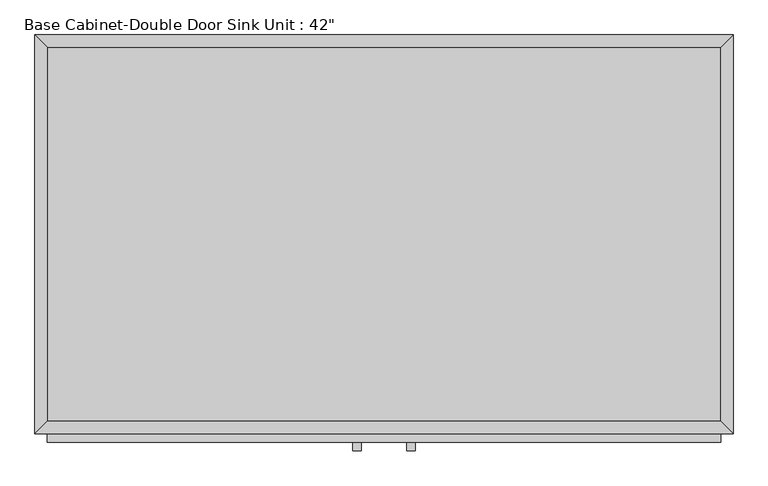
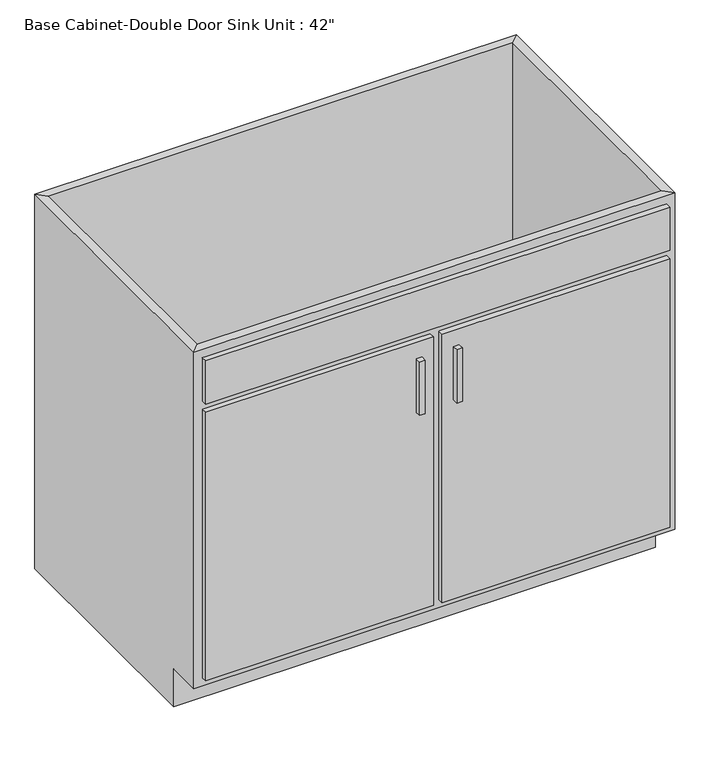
"""IFC4 building model written with IfcOpenShell, lengths in millimetres: furniture geometry."""

import ifcopenshell
import ifcopenshell.guid

model = None  # the IFC model being written
_history = None  # IfcOwnerHistory: only IFC2X3 demands one
_inside = {}  # id of a spatial element -> (the spatial element, [elements in it])
_under = {}  # id of a project, library or spatial element -> (it, [spatial elements below it])
_declared = {}  # id of a project -> (the project, [libraries it declares])
_typed = {}  # id of a type object -> (the type object, [elements of that type])
_made_of = {}  # id of a material, layer set ... -> (it, [elements and type objects made of it])


def new_model(schema):
    """Start an empty IFC model of exactly this schema.

    Asked for "IFC4X3", IfcOpenShell would pick the latest addendum, in which some entities
    have other attributes; the version numbers below select the first issue.
    IFC2X3 requires an IfcOwnerHistory on every rooted entity: one is made here for all.
    """
    global model, _history
    if schema == "IFC4X3":
        model = ifcopenshell.file(schema_version=(4, 3, 0, 0))
    else:
        model = ifcopenshell.file(schema=schema)
    _inside.clear()
    _under.clear()
    _declared.clear()
    _typed.clear()
    _made_of.clear()
    _history = None
    if model.schema == "IFC2X3":
        org = make("IfcOrganization", Name="unknown")
        user = make(
            "IfcPersonAndOrganization",
            ThePerson=make("IfcPerson", FamilyName="unknown"),
            TheOrganization=org,
        )
        app = make(
            "IfcApplication",
            ApplicationDeveloper=org,
            Version="unknown",
            ApplicationFullName="unknown",
            ApplicationIdentifier="unknown",
        )
        _history = make(
            "IfcOwnerHistory",
            OwningUser=user,
            OwningApplication=app,
            ChangeAction="ADDED",
            CreationDate=0,
        )
    return model


def make(cls, **values):
    """One entity of the class cls with the attributes given. An attribute that is None is left unset."""
    return model.create_entity(
        cls, **{name: value for name, value in values.items() if value is not None}
    )


def rooted(cls, **values):
    """An entity with a GlobalId (a new one), such as an element, a storey or a relation."""
    return make(cls, GlobalId=ifcopenshell.guid.new(), OwnerHistory=_history, **values)


def si_unit(unit_type, name, prefix=None):
    """IfcSIUnit, for example si_unit("LENGTHUNIT", "METRE", prefix="MILLI")."""
    return make("IfcSIUnit", UnitType=unit_type, Prefix=prefix, Name=name)


def assignment(units):
    """IfcUnitAssignment: the units of a project."""
    return None if units is None else make("IfcUnitAssignment", Units=units)


def point(xyz):
    """IfcCartesianPoint."""
    return None if xyz is None else make("IfcCartesianPoint", Coordinates=xyz)


def direction(xyz):
    """IfcDirection."""
    return None if xyz is None else make("IfcDirection", DirectionRatios=xyz)


def frame(location, z_axis=None, x_axis=None):
    """IfcAxis2Placement3D, a coordinate frame: its origin and axes. An axis left out is left unset."""
    return make(
        "IfcAxis2Placement3D",
        Location=point(location),
        Axis=direction(z_axis),
        RefDirection=direction(x_axis),
    )


def origin():
    """The frame at (0, 0, 0) with its axes left unset."""
    return frame((0.0, 0.0, 0.0))


def place(relative_to, where):
    """IfcLocalPlacement: puts the frame where relative to a parent placement (None: the world)."""
    return make(
        "IfcLocalPlacement", PlacementRelTo=relative_to, RelativePlacement=where
    )


def context(
    kind, dimensions, precision=None, world=None, true_north=None, identifier=None
):
    """IfcGeometricRepresentationContext, for example the 3D "Model" context."""
    return make(
        "IfcGeometricRepresentationContext",
        ContextIdentifier=identifier,
        ContextType=kind,
        CoordinateSpaceDimension=dimensions,
        Precision=precision,
        WorldCoordinateSystem=world,
        TrueNorth=true_north,
    )


def project(units=None, contexts=None):
    """IfcProject with its units and contexts."""
    return rooted(
        "IfcProject",
        Name="project",
        RepresentationContexts=contexts,
        UnitsInContext=assignment(units),
    )


def spatial(cls, under=None, at=None, **own):
    """A site, building, storey or space (cls), placed at a placement, below another one or the project."""
    s = rooted(cls, ObjectPlacement=at, **own)
    if under is not None:
        _under.setdefault(under.id(), (under, []))[1].append(s)
    return s


def polyline(points):
    """IfcPolyline through the points."""
    return make("IfcPolyline", Points=[point(p) for p in points])


def outline(outer, holes=None, kind="AREA"):
    """IfcArbitraryClosedProfileDef: a profile drawn as a closed curve; with holes, ...WithVoids."""
    if holes is None:
        return make("IfcArbitraryClosedProfileDef", ProfileType=kind, OuterCurve=outer)
    return make(
        "IfcArbitraryProfileDefWithVoids",
        ProfileType=kind,
        OuterCurve=outer,
        InnerCurves=holes,
    )


def extrude(swept, where, along, depth):
    """IfcExtrudedAreaSolid: the profile swept, set in the frame where, extruded along a direction by depth."""
    return make(
        "IfcExtrudedAreaSolid",
        SweptArea=swept,
        Position=where,
        ExtrudedDirection=direction(along),
        Depth=depth,
    )


def faces_of(points, faces, orient=None, outer=None):
    """IfcFace entities. A face is a list of loops; a loop is a list of indices into points, from 0.

    orient and outer hold one flag for each loop. By default every Orientation is true, the
    first loop of a face is its IfcFaceOuterBound and the others are IfcFaceBound.
    """
    made = []
    for i, loops in enumerate(faces):
        bounds = []
        for j, loop in enumerate(loops):
            is_outer = j == 0 if outer is None else outer[i][j]
            bounds.append(
                make(
                    "IfcFaceOuterBound" if is_outer else "IfcFaceBound",
                    Bound=make("IfcPolyLoop", Polygon=[points[k] for k in loop]),
                    Orientation=True if orient is None else orient[i][j],
                )
            )
        made.append(make("IfcFace", Bounds=bounds))
    return made


def faceted_brep(points, faces, orient=None, outer=None, voids=None):
    """IfcFacetedBrep: a solid bounded by flat faces; with voids (closed shells), ...WithVoids."""
    shared = [point(p) for p in points]
    hull = make("IfcClosedShell", CfsFaces=faces_of(shared, faces, orient, outer))
    if voids is None:
        return make("IfcFacetedBrep", Outer=hull)
    return make(
        "IfcFacetedBrepWithVoids",
        Outer=hull,
        Voids=[
            make(cls, CfsFaces=faces_of(shared, fs, o, b)) for cls, fs, o, b in voids
        ],
    )


def shape(context_of_items, identifier, shape_type, items):
    """IfcShapeRepresentation: the items that make up one representation, for example the "Body"."""
    return make(
        "IfcShapeRepresentation",
        ContextOfItems=context_of_items,
        RepresentationIdentifier=identifier,
        RepresentationType=shape_type,
        Items=items,
    )


def source(mapping_origin, context_of_items, identifier, shape_type, items):
    """IfcRepresentationMap: a shape defined once, which mapped items show again and again."""
    return make(
        "IfcRepresentationMap",
        MappingOrigin=mapping_origin,
        MappedRepresentation=shape(context_of_items, identifier, shape_type, items),
    )


def transform(
    local_origin,
    x_axis=None,
    y_axis=None,
    z_axis=None,
    scale=None,
    scale2=None,
    scale3=None,
    uniform=True,
):
    """IfcCartesianTransformationOperator3D, or its non-uniform kind. x_axis, y_axis, z_axis: its Axis1, 2, 3."""
    if uniform:
        return make(
            "IfcCartesianTransformationOperator3D",
            Axis1=direction(x_axis),
            Axis2=direction(y_axis),
            LocalOrigin=point(local_origin),
            Scale=scale,
            Axis3=direction(z_axis),
        )
    return make(
        "IfcCartesianTransformationOperator3DnonUniform",
        Axis1=direction(x_axis),
        Axis2=direction(y_axis),
        LocalOrigin=point(local_origin),
        Scale=scale,
        Axis3=direction(z_axis),
        Scale2=scale2,
        Scale3=scale3,
    )


def mapped(mapping_source, mapping_target):
    """IfcMappedItem: shows the shape of a source again, moved by a transform."""
    return make(
        "IfcMappedItem", MappingSource=mapping_source, MappingTarget=mapping_target
    )


def made_of(thing, what):
    """Note that an element or type object is made of a material, layer set ...; save() writes the relation."""
    if what is not None:
        _made_of.setdefault(what.id(), (what, []))[1].append(thing)
    return thing


def element(
    cls,
    number,
    at=None,
    inside=None,
    cuts=None,
    type_object=None,
    material=None,
    context=None,
    identifier="Body",
    shape_type=None,
    held_by="IfcProductDefinitionShape",
    body=None,
    shapes=None,
    **own,
):
    """One element of the class cls, such as IfcWall. Its Tag is "e" and its number.

    at: its placement. inside: the storey or other place that contains it. cuts: it is an
    opening in that element (IfcRelVoidsElement). A single representation is given by context,
    identifier, shape_type and body (its items); several are given by shapes. held_by: the class
    of the entity that holds the representations. save() writes the other relations.
    """
    e = rooted(cls, Tag="e%d" % number, ObjectPlacement=at, **own)
    if body is not None:
        shapes = [shape(context, identifier, shape_type, body)]
    if shapes is not None:
        e.Representation = make(held_by, Representations=shapes)
    if inside is not None:
        _inside.setdefault(inside.id(), (inside, []))[1].append(e)
    if cuts is not None:
        rooted(
            "IfcRelVoidsElement", RelatingBuildingElement=cuts, RelatedOpeningElement=e
        )
    if type_object is not None:
        _typed.setdefault(type_object.id(), (type_object, []))[1].append(e)
    return made_of(e, material)


def aggregate(whole, parts):
    """IfcRelAggregates: a whole, such as a stair, and the parts it consists of."""
    return rooted("IfcRelAggregates", RelatingObject=whole, RelatedObjects=parts)


def save(model, path):
    """Write the relations noted so far, then the file.

    IfcRelAggregates (storeys below a building ...), IfcRelContainedInSpatialStructure (elements
    in a storey), IfcRelDefinesByType, IfcRelAssociatesMaterial and IfcRelDeclares: one each for
    every whole, place, type object, material and project.
    """
    for whole, parts in _under.values():
        aggregate(whole, parts)
    for where, things in _inside.values():
        rooted(
            "IfcRelContainedInSpatialStructure",
            RelatedElements=things,
            RelatingStructure=where,
        )
    for kind, things in _typed.values():
        rooted("IfcRelDefinesByType", RelatedObjects=things, RelatingType=kind)
    for what, things in _made_of.values():
        rooted("IfcRelAssociatesMaterial", RelatedObjects=things, RelatingMaterial=what)
    for by, libraries in _declared.values():
        rooted("IfcRelDeclares", RelatingContext=by, RelatedDefinitions=libraries)
    model.write(path)


def furniture_ab3c6687(model_context):
    return source(origin(), model_context, "Body", "SolidModel", [
        faceted_brep([(533.0877049, -590.55, 876.3), (533.0877049, -590.55, 88.9), (-495.6122951, -590.55, 88.9), (-495.6122951, -590.55, 876.3), (-514.6622951, -609.6, 876.3), (552.1377049, -609.6, 876.3), (-514.6622951, -609.6, 88.9), (552.1377049, -609.6, 88.9), (-495.6122951, -533.4, 88.9), (-495.6122951, -19.05, 88.9), (-495.6122951, -19.05, 876.3), (-514.6622951, 0.0, 876.3), (-514.6622951, 0.0, 0.0), (-514.6622951, -533.4, 0.0), (-514.6622951, -533.4, 88.9), (533.0877049, -19.05, 88.9), (533.0877049, -19.05, 876.3), (552.1377049, 0.0, 876.3), (552.1377049, 0.0, 0.0), (533.0877049, -533.4, 88.9), (552.1377049, -533.4, 88.9), (552.1377049, -533.4, 0.0)], [[[0, 1, 2, 3]], [[0, 3, 4, 5]], [[5, 4, 6, 7]], [[2, 1, 7, 6]], [[3, 2, 8, 9, 10]], [[4, 3, 10, 11]], [[6, 4, 11, 12, 13, 14]], [[2, 6, 14, 8]], [[10, 9, 15, 16]], [[11, 10, 16, 17]], [[12, 11, 17, 18]], [[1, 0, 16, 15, 19]], [[0, 5, 17, 16]], [[5, 7, 20, 21, 18, 17]], [[7, 1, 19, 20]], [[8, 19, 15, 9]], [[18, 21, 13, 12]], [[13, 21, 20, 19, 8, 14]]]),
        extrude(outline(polyline([(-16.1872951, -635.0), (-28.8872951, -635.0), (-28.8872951, -622.3), (-16.1872951, -622.3), (-16.1872951, -635.0)])), frame((0.0, 0.0, 573.769895), z_axis=(0.0, 0.0, 1.0), x_axis=(1.0, 0.0, 0.0)), (0.0, 0.0, 1.0), 124.730105),
        extrude(outline(polyline([(66.3627049, -635.0), (53.6627049, -635.0), (53.6627049, -622.3), (66.3627049, -622.3), (66.3627049, -635.0)])), frame((0.0, 0.0, 573.769895), z_axis=(0.0, 0.0, 1.0), x_axis=(1.0, 0.0, 0.0)), (0.0, 0.0, 1.0), 124.730105),
        extrude(outline(polyline([(533.0877049, -19.05), (533.0877049, -590.55), (-495.6122951, -590.55), (-495.6122951, -19.05), (533.0877049, -19.05)])), frame((0.0, 0.0, 88.9), z_axis=(0.0, 0.0, 1.0), x_axis=(1.0, 0.0, 0.0)), (0.0, 0.0, 1.0), 19.05),
        extrude(outline(polyline([(9.2127049, -622.3), (-495.6122951, -622.3), (-495.6122951, -609.6), (9.2127049, -609.6), (9.2127049, -622.3)])), frame((0.0, 0.0, 107.95), z_axis=(0.0, 0.0, 1.0), x_axis=(1.0, 0.0, 0.0)), (0.0, 0.0, 1.0), 628.65),
        extrude(outline(polyline([(533.0877049, -622.3), (28.2627049, -622.3), (28.2627049, -609.6), (533.0877049, -609.6), (533.0877049, -622.3)])), frame((0.0, 0.0, 107.95), z_axis=(0.0, 0.0, 1.0), x_axis=(1.0, 0.0, 0.0)), (0.0, 0.0, 1.0), 628.65),
        extrude(outline(polyline([(533.0877049, -622.3), (-495.6122951, -622.3), (-495.6122951, -609.6), (533.0877049, -609.6), (533.0877049, -622.3)])), frame((0.0, 0.0, 755.65), z_axis=(0.0, 0.0, 1.0), x_axis=(1.0, 0.0, 0.0)), (0.0, 0.0, 1.0), 101.6),
    ])


if __name__ == "__main__":
    model = new_model("IFC4")
    model_context = context("Model", 3, world=origin())
    ifc_project = project(units=[si_unit("LENGTHUNIT", "METRE", prefix="MILLI")], contexts=[model_context])
    site = spatial("IfcSite", under=ifc_project)
    building = spatial("IfcBuilding", under=site)
    placement = place(None, origin())
    furniture_shape = furniture_ab3c6687(model_context)
    element("IfcFurniture", 1, ObjectType="Base Cabinet-Double Door Sink Unit : 42\"", at=placement, inside=building, context=model_context, shape_type="MappedRepresentation", body=[
        mapped(furniture_shape, transform((0.0, 0.0, 0.0), x_axis=(1.0, 0.0, 0.0), y_axis=(0.0, 1.0, 0.0), z_axis=(0.0, 0.0, 1.0))),
    ])
    save(model, "model.ifc")
